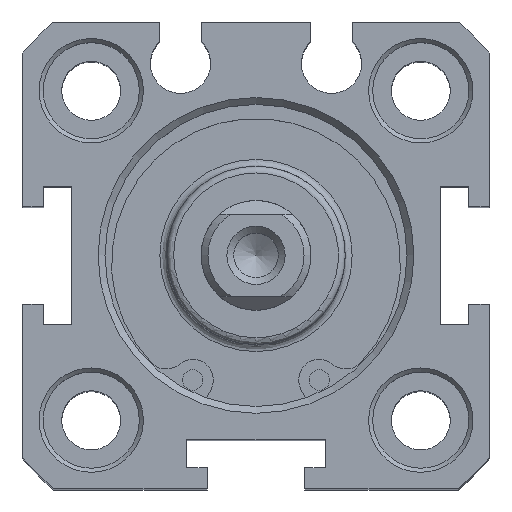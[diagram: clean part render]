
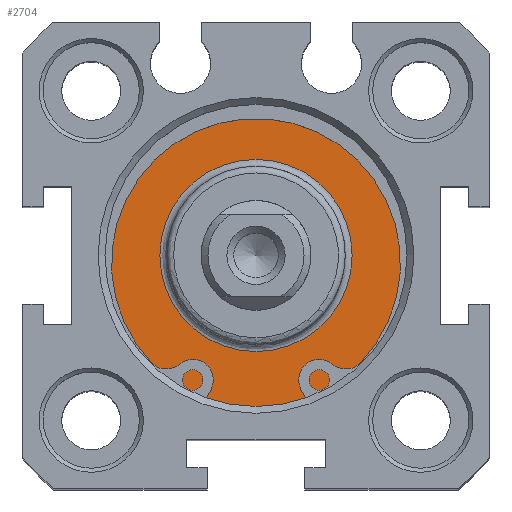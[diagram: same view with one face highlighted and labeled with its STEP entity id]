
A CAD part, top view. The second image highlights one B-rep face of the part: STEP entity #2704.
In plain terms, the highlighted planar face has unit normal (0, 0, 1).
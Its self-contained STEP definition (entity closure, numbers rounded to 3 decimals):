
#2653=CARTESIAN_POINT('',(0.24,8.683,46.8));
#2654=VERTEX_POINT('',#2653);
#2655=CARTESIAN_POINT('',(0.24,1.683,46.8));
#2656=DIRECTION('',(0.0,0.0,1.0));
#2657=DIRECTION('',(0.0,-1.0,0.0));
#2658=AXIS2_PLACEMENT_3D('',#2655,#2656,#2657);
#2659=CIRCLE('',#2658,7.);
#2660=EDGE_CURVE('',#2654,#2654,#2659,.T.);
#2685=CARTESIAN_POINT('',(0.24,10.433,46.8));
#2686=DIRECTION('',(0.0,0.0,1.0));
#2687=DIRECTION('',(1.0,0.0,0.0));
#2688=AXIS2_PLACEMENT_3D('',#2685,#2686,#2687);
#2689=PLANE('',#2688);
#2690=CARTESIAN_POINT('',(0.24,12.683,46.8));
#2691=VERTEX_POINT('',#2690);
#2692=CARTESIAN_POINT('',(0.24,1.683,46.8));
#2693=DIRECTION('',(0.0,0.0,-1.0));
#2694=DIRECTION('',(0.0,1.0,0.0));
#2695=AXIS2_PLACEMENT_3D('',#2692,#2693,#2694);
#2696=CIRCLE('',#2695,11.0);
#2697=EDGE_CURVE('',#2691,#2691,#2696,.T.);
#2698=ORIENTED_EDGE('',*,*,#2697,.F.);
#2699=EDGE_LOOP('',(#2698));
#2700=FACE_OUTER_BOUND('',#2699,.T.);
#2701=ORIENTED_EDGE('',*,*,#2660,.F.);
#2702=EDGE_LOOP('',(#2701));
#2703=FACE_BOUND('',#2702,.T.);
#2704=ADVANCED_FACE('',(#2700,#2703),#2689,.T.);
